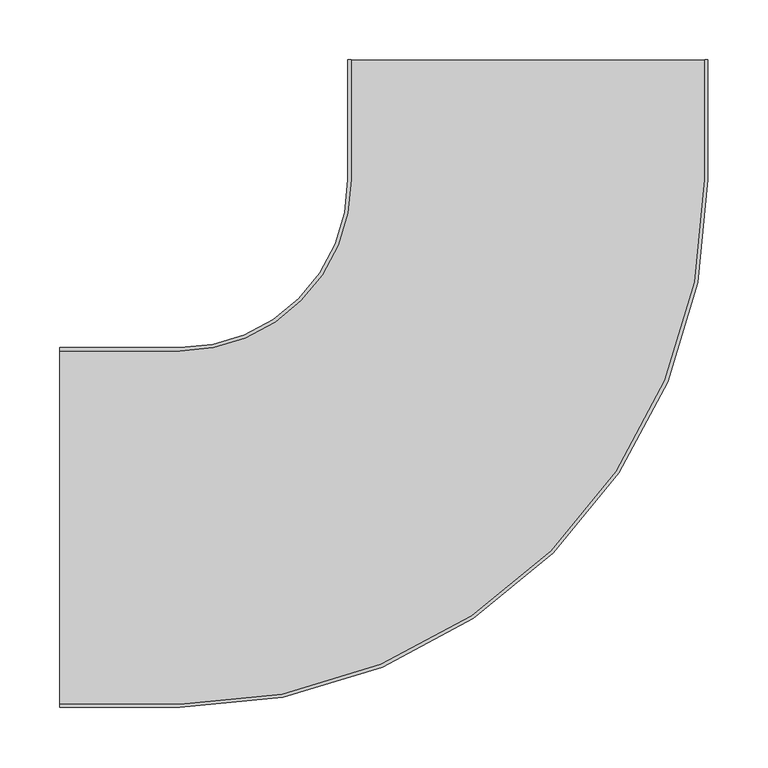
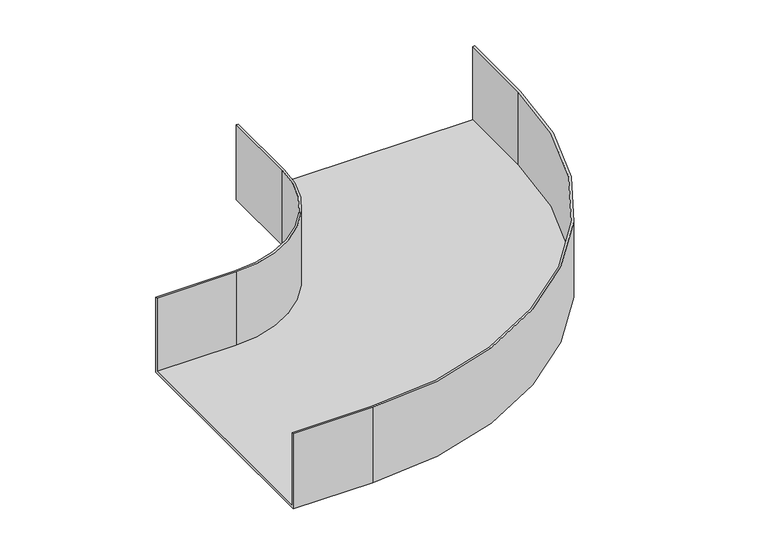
"""IFC4 building model written with IfcOpenShell, lengths in millimetres: cable carrier fitting geometry, BAKS_Horizontal bend radius : KKPJ/KKMPJ_H100."""

from ifc_helpers import new_model, si_unit, frame, origin, place, context, project, spatial, polyline, circle_curve, source, transform, mapped, element, save
from ifc_brep_helpers import plane_surface, cylinder_surface, revolved_surface, advanced_brep


def cable_carrier_fitting_24d58ad9(model_context):
    return source(origin(), model_context, "Body", "AdvancedBrep", [
        advanced_brep(
        [(-390.0, -150.0, -50.0), (-390.0, -150.0, 50.0), (-390.0, -147.46, 50.0), (-390.0, -147.46, -47.46), (-390.0, 147.46, -47.46), (-390.0, 147.46, 50.0), (-390.0, 150.0, 50.0), (-390.0, 150.0, -50.0), (150.0, 390.0, -50.0), (-150.0, 390.0, -50.0), (-150.0, 390.0, 50.0), (-147.46, 390.0, 50.0), (-147.46, 390.0, -47.46), (147.46, 390.0, -47.46), (147.46, 390.0, 50.0), (150.0, 390.0, 50.0), (-290.0, -150.0, -50.0), (-290.0, -150.0, 50.0), (150.0, 290.0, 50.0), (147.46, 290.0, 50.0), (-290.0, -147.46, 50.0), (-290.0, -147.46, -47.46), (147.46, 290.0, -47.46), (-147.46, 290.0, -47.46), (-290.0, 147.46, -47.46), (-290.0, 147.46, 50.0), (-147.46, 290.0, 50.0), (-150.0, 290.0, 50.0), (-290.0, 150.0, 50.0), (-290.0, 150.0, -50.0), (-150.0, 290.0, -50.0), (150.0, 290.0, -50.0)],
        [
            (0, 1),
            (1, 2),
            (2, 3),
            (3, 4),
            (4, 5),
            (5, 6),
            (6, 7),
            (7, 0),
            (8, 9),
            (9, 10),
            (10, 11),
            (11, 12),
            (12, 13),
            (13, 14),
            (14, 15),
            (15, 8),
            (0, 16),
            (16, 17),
            (17, 1),
            (17, 18, circle_curve(frame((-290.0, 290.0, 50.0), z_axis=(0.0, 0.0, 1.0), x_axis=(0.0, -1.0, 0.0)), 440.0)),
            (18, 15),
            (14, 19),
            (19, 20, circle_curve(frame((-290.0, 290.0, 50.0), z_axis=(0.0, 0.0, -1.0), x_axis=(0.0, -1.0, 0.0)), 437.46)),
            (20, 2),
            (20, 21),
            (21, 3),
            (21, 22, circle_curve(frame((-290.0, 290.0, -47.46), z_axis=(0.0, 0.0, 1.0), x_axis=(0.0, -1.0, 0.0)), 437.46)),
            (22, 13),
            (12, 23),
            (23, 24, circle_curve(frame((-290.0, 290.0, -47.46), z_axis=(0.0, 0.0, -1.0), x_axis=(0.0, -1.0, 0.0)), 142.54)),
            (24, 4),
            (24, 25),
            (25, 5),
            (25, 26, circle_curve(frame((-290.0, 290.0, 50.0), z_axis=(0.0, 0.0, 1.0), x_axis=(0.0, -1.0, 0.0)), 142.54)),
            (26, 11),
            (10, 27),
            (27, 28, circle_curve(frame((-290.0, 290.0, 50.0), z_axis=(0.0, 0.0, -1.0), x_axis=(0.0, -1.0, 0.0)), 140.0)),
            (28, 6),
            (28, 29),
            (29, 7),
            (29, 30, circle_curve(frame((-290.0, 290.0, -50.0), z_axis=(0.0, 0.0, 1.0), x_axis=(0.0, -1.0, 0.0)), 140.0)),
            (30, 9),
            (8, 31),
            (31, 16, circle_curve(frame((-290.0, 290.0, -50.0), z_axis=(0.0, 0.0, -1.0), x_axis=(0.0, -1.0, 0.0)), 440.0)),
            (31, 18),
            (19, 22),
            (23, 26),
            (27, 30),
        ],
        [
            plane_surface(frame((-390.0, 0.0, 0.0), z_axis=(-1.0, 0.0, 0.0), x_axis=(0.0, 0.0, 1.0))),
            plane_surface(frame((0.0, 390.0, 0.0), z_axis=(0.0, 1.0, 0.0), x_axis=(0.0, 0.0, 1.0))),
            plane_surface(frame((-390.0, -150.0, -50.0), z_axis=(0.0, -1.0, 0.0), x_axis=(1.0, 0.0, 0.0))),
            plane_surface(frame((-390.0, -150.0, 50.0), z_axis=(0.0, 0.0, 1.0), x_axis=(1.0, 0.0, 0.0))),
            plane_surface(frame((-390.0, -147.46, 50.0), z_axis=(0.0, 1.0, 0.0), x_axis=(1.0, 0.0, 0.0))),
            plane_surface(frame((-390.0, -147.46, -47.46), z_axis=(0.0, 0.0, 1.0), x_axis=(1.0, 0.0, 0.0))),
            plane_surface(frame((-390.0, 147.46, -47.46), z_axis=(0.0, -1.0, 0.0), x_axis=(1.0, 0.0, 0.0))),
            plane_surface(frame((-390.0, 147.46, 50.0), z_axis=(0.0, 0.0, 1.0), x_axis=(1.0, 0.0, 0.0))),
            plane_surface(frame((-390.0, 150.0, 50.0), z_axis=(0.0, 1.0, 0.0), x_axis=(1.0, 0.0, 0.0))),
            plane_surface(frame((-390.0, 150.0, -50.0), z_axis=(0.0, 0.0, -1.0), x_axis=(1.0, 0.0, 0.0))),
            cylinder_surface(frame((-290.0, 290.0, 0.0), z_axis=(0.0, 0.0, 1.0), x_axis=(0.0, -1.0, 0.0)), 440.0),
            revolved_surface(polyline([(-290.0, -147.45999999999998, 50.0), (-290.0, -147.45999999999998, -47.46)]), (-290.0, 290.0, 0.0), (0.0, 0.0, 1.0)),
            cylinder_surface(frame((-290.0, 290.0, 0.0), z_axis=(0.0, 0.0, 1.0), x_axis=(0.0, -1.0, 0.0)), 142.54),
            revolved_surface(polyline([(-290.0, 150.0, 50.0), (-290.0, 150.0, -50.0)]), (-290.0, 290.0, 0.0), (0.0, 0.0, 1.0)),
            plane_surface(frame((150.0, 290.0, -50.0), z_axis=(1.0, 0.0, 0.0), x_axis=(0.0, 1.0, 0.0))),
            plane_surface(frame((147.46, 290.0, 50.0), z_axis=(-1.0, 0.0, 0.0), x_axis=(0.0, 1.0, 0.0))),
            plane_surface(frame((-147.46, 290.0, -47.46), z_axis=(1.0, 0.0, 0.0), x_axis=(0.0, 1.0, 0.0))),
            plane_surface(frame((-150.0, 290.0, 50.0), z_axis=(-1.0, 0.0, 0.0), x_axis=(0.0, 1.0, 0.0))),
        ],
        [
            (0, [[1, 2, 3, 4, 5, 6, 7, 8]]),
            (1, [[9, 10, 11, 12, 13, 14, 15, 16]]),
            (2, [[-1, 17, 18, 19]]),
            (3, [[-2, -19, 20, 21, -15, 22, 23, 24]]),
            (4, [[-3, -24, 25, 26]]),
            (5, [[-4, -26, 27, 28, -13, 29, 30, 31]]),
            (6, [[-5, -31, 32, 33]]),
            (7, [[-6, -33, 34, 35, -11, 36, 37, 38]]),
            (8, [[-7, -38, 39, 40]]),
            (9, [[-8, -40, 41, 42, -9, 43, 44, -17]]),
            (10, [[-20, -18, -44, 45]]),
            (11, [[-27, -25, -23, 46]]),
            (12, [[-34, -32, -30, 47]]),
            (13, [[-41, -39, -37, 48]]),
            (14, [[-45, -43, -16, -21]]),
            (15, [[-46, -22, -14, -28]]),
            (16, [[-47, -29, -12, -35]]),
            (17, [[-48, -36, -10, -42]]),
        ],
    ),
    ])


if __name__ == "__main__":
    model = new_model("IFC4")
    model_context = context("Model", 3, world=origin())
    ifc_project = project(units=[si_unit("LENGTHUNIT", "METRE", prefix="MILLI")], contexts=[model_context])
    site = spatial("IfcSite", under=ifc_project)
    building = spatial("IfcBuilding", under=site)
    placement = place(None, origin())
    cable_carrier_fitting_shape = cable_carrier_fitting_24d58ad9(model_context)
    element("IfcCableCarrierFitting", 1, ObjectType="BAKS_Horizontal bend radius : KKPJ/KKMPJ_H100", at=placement, inside=building, context=model_context, shape_type="MappedRepresentation", body=[
        mapped(cable_carrier_fitting_shape, transform((0.0, 0.0, 0.0), x_axis=(1.0, 0.0, 0.0), y_axis=(0.0, 1.0, 0.0), z_axis=(0.0, 0.0, 1.0))),
    ])
    save(model, "model.ifc")
